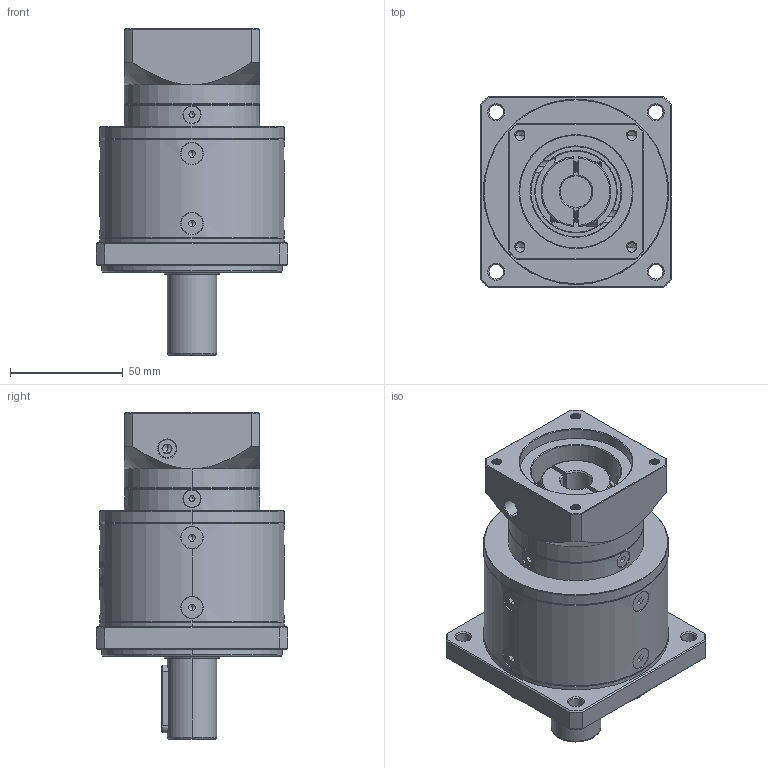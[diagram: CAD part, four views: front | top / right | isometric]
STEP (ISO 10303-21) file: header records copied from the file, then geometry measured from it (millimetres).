
FILE_DESCRIPTION (( 'STEP AP214' ), '1' );
FILE_NAME ('ZF80-D22-L2-14-50-70-M5.step', '2022-05-08T09:26:20', ( '' ), ( 'Microsoft' ), 'SwSTEP 2.0', 'SolidWorks 2016', '' );
FILE_SCHEMA (( 'AUTOMOTIVE_DESIGN' ));
Length unit declared in the file: millimetre
Products named in the file (1): ZF80-D22-L2-14-50-70-M5
Bounding box: 85 x 85 x 145 mm (x, y, z)
Volume: 471074.4 mm3; surface area: 68227.8 mm2
Topology: 18 solids, 18 shells, 2041 faces, 5337 edges, 3392 vertices
Faces by surface type: plane 948, cylinder 425, bspline 328, cone 326, torus 14
Entity records: 110960 total; most frequent: CARTESIAN_POINT 41854, ORIENTED_EDGE 10598, DIRECTION 8447, EDGE_CURVE 5299, VERTEX_POINT 3392, VECTOR 2863, LINE 2863, AXIS2_PLACEMENT_3D 2792
